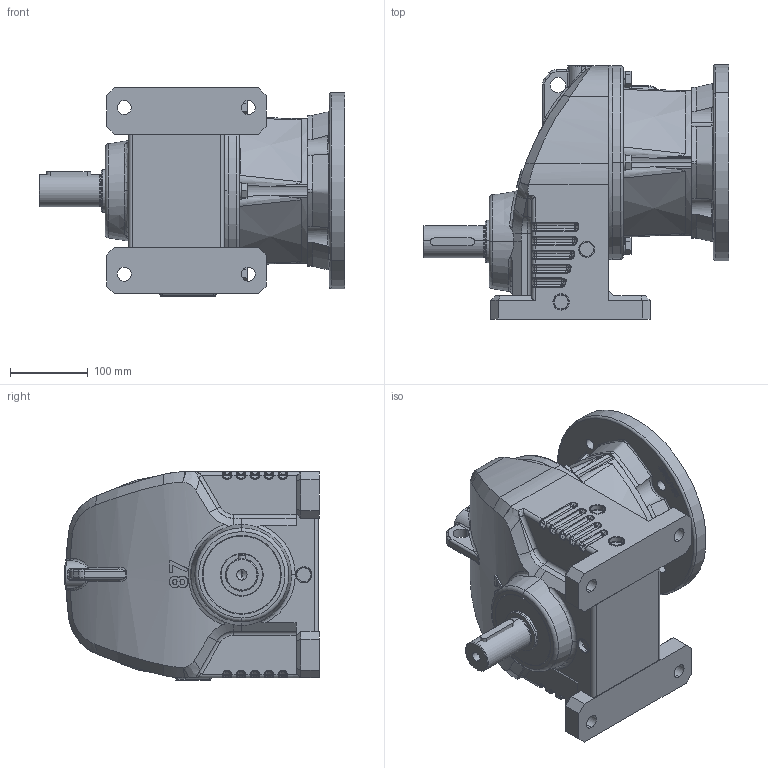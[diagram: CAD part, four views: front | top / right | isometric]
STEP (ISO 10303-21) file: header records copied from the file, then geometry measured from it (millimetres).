
FILE_DESCRIPTION (( 'STEP AP203' ), '1' );
FILE_NAME ('RX087HF-254TC.STEP', '2015-03-16T05:38:12', ( 'user' ), ( '' ), 'SwSTEP 2.0', 'SolidWorks 2012', '' );
FILE_SCHEMA (( 'CONFIG_CONTROL_DESIGN' ));
Products named in the file (27): RX087HF-254TC; JSPC040050005A; PKD3_8057; PCA040_JIS B 2804 Shaft use 40; PBA6308_SKF - 6308 - 10,DE,NC,10_68; PCB100_PCB100; PSS055100121; PBA6309_SKF - 6309 - 10,DE,NC,10_68; JKGB09765L_JKGB09765L; 087法蘭入力組合254T_B4; PBA6213_SKF - 6213 - 14,DE,NC,14_68; PBA6212_SKF - 6212 - 14,DE,NC,14_68; PWS12; PTBA12040; P115_JKGA2828R; PCA028_JIS B 2804 Shaft use 28; PKD0606025; PSS065090121; PTAA14045; KFGG254T; KNGH254Txx_KNGH254T28; KHGA08715_KHGA08715; PJB04; PCA045; PKD1208025; KEGX087; JCHX087
Assembly tree (40 placements, depth 3):
  RX087HF-254TC
    JCHX087
    KEGX087
    PKD1208025
    PCA045
    PJB04  x5
    087法蘭入力組合254T_B4
      KHGA08715_KHGA08715
      KNGH254Txx_KNGH254T28
      KFGG254T
      PTAA14045  x4
      PSS065090121
      PKD0606025
      PCA028_JIS B 2804 Shaft use 28
      P115_JKGA2828R
      PTBA12040  x4
      PWS12  x4
      PBA6212_SKF - 6212 - 14,DE,NC,14_68
      PBA6213_SKF - 6213 - 14,DE,NC,14_68
      PJB04
    JKGB09765L_JKGB09765L
    PBA6309_SKF - 6309 - 10,DE,NC,10_68
    PSS055100121
    PCB100_PCB100
    PBA6308_SKF - 6308 - 10,DE,NC,10_68
    PCA040_JIS B 2804 Shaft use 40
    PKD3_8057
    JSPC040050005A
Bounding box: 394.5 x 328.52 x 269 mm (x, y, z)
Volume: 6693677.6 mm3; surface area: 1352429.3 mm2
Topology: 39 solids, 39 shells, 2100 faces, 5744 edges, 3597 vertices
Faces by surface type: cylinder 621, plane 565, torus 346, bspline 226, cone 214, sphere 128
Entity records: 83494 total; most frequent: CARTESIAN_POINT 34230, ORIENTED_EDGE 10144, DIRECTION 9267, EDGE_CURVE 5072, AXIS2_PLACEMENT_3D 3864, VERTEX_POINT 3225, CIRCLE 2153, EDGE_LOOP 2089
